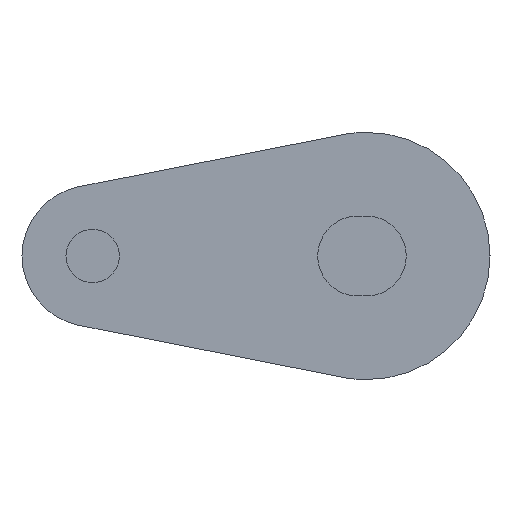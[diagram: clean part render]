
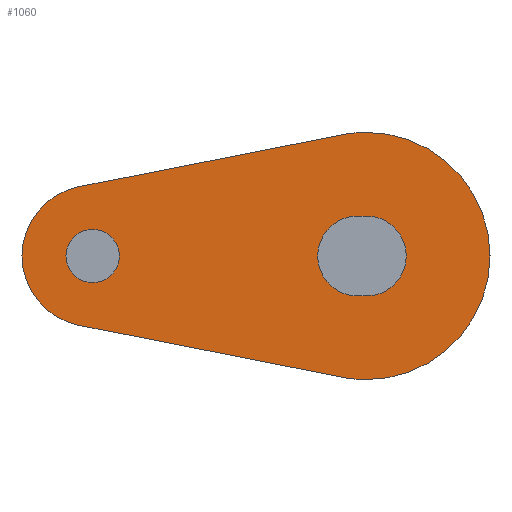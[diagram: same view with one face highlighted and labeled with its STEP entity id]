
A CAD part, left-side view. The second image highlights one B-rep face of the part: STEP entity #1060.
In plain terms, the highlighted planar face has unit normal (-1, 0, 0).
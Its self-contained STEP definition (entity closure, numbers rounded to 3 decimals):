
#6 = CIRCLE ( 'NONE', #933, 2.26 ) ;
#13 = CIRCLE ( 'NONE', #1017, 1.51 ) ;
#18 = VECTOR ( 'NONE', #673, 1000. ) ;
#19 = LINE ( 'NONE', #674, #18 ) ;
#22 = CIRCLE ( 'NONE', #923, 4. ) ;
#24 = CIRCLE ( 'NONE', #874, 1.51 ) ;
#50 = CIRCLE ( 'NONE', #913, 7. ) ;
#62 = CIRCLE ( 'NONE', #961, 7. ) ;
#71 = CIRCLE ( 'NONE', #927, 2.26 ) ;
#79 = CIRCLE ( 'NONE', #957, 7. ) ;
#99 = VECTOR ( 'NONE', #843, 1000. ) ;
#104 = LINE ( 'NONE', #846, #99 ) ;
#107 = LINE ( 'NONE', #861, #110 ) ;
#110 = VECTOR ( 'NONE', #852, 1000. ) ;
#113 = VECTOR ( 'NONE', #862, 1000. ) ;
#191 = ORIENTED_EDGE ( 'NONE', *, *, #1010, .T. ) ;
#196 = EDGE_LOOP ( 'NONE', ( #238, #239, #207, #209, #210, #246 ) ) ;
#204 = ORIENTED_EDGE ( 'NONE', *, *, #991, .T. ) ;
#207 = ORIENTED_EDGE ( 'NONE', *, *, #948, .F. ) ;
#209 = ORIENTED_EDGE ( 'NONE', *, *, #937, .F. ) ;
#210 = ORIENTED_EDGE ( 'NONE', *, *, #903, .F. ) ;
#211 = ORIENTED_EDGE ( 'NONE', *, *, #929, .T. ) ;
#212 = ORIENTED_EDGE ( 'NONE', *, *, #867, .T. ) ;
#213 = ORIENTED_EDGE ( 'NONE', *, *, #981, .T. ) ;
#238 = ORIENTED_EDGE ( 'NONE', *, *, #982, .F. ) ;
#239 = ORIENTED_EDGE ( 'NONE', *, *, #877, .F. ) ;
#243 = ORIENTED_EDGE ( 'NONE', *, *, #994, .T. ) ;
#246 = ORIENTED_EDGE ( 'NONE', *, *, #886, .F. ) ;
#261 = EDGE_LOOP ( 'NONE', ( #191, #204, #211, #212 ) ) ;
#289 = LINE ( 'NONE', #414, #113 ) ;
#312 = EDGE_LOOP ( 'NONE', ( #213, #243 ) ) ;
#372 = FACE_BOUND ( 'NONE', #312, .T. ) ;
#375 = FACE_BOUND ( 'NONE', #261, .T. ) ;
#379 = FACE_OUTER_BOUND ( 'NONE', #196, .T. ) ;
#414 = CARTESIAN_POINT ( 'NONE',  ( -128.5, 0.5, -2.26 ) ) ;
#456 = DIRECTION ( 'NONE',  ( 0., 0., -1. ) ) ;
#457 = DIRECTION ( 'NONE',  ( -1., 0., 0. ) ) ;
#458 = CARTESIAN_POINT ( 'NONE',  ( -128.5, 15.5, 0. ) ) ;
#461 = PLANE ( 'NONE',  #912 ) ;
#490 = CARTESIAN_POINT ( 'NONE',  ( -128.5, 0., 7. ) ) ;
#518 = CARTESIAN_POINT ( 'NONE',  ( -128.5, 1.355, 6.868 ) ) ;
#521 = CARTESIAN_POINT ( 'NONE',  ( -128.5, 0.5, -2.26 ) ) ;
#540 = CARTESIAN_POINT ( 'NONE',  ( -128.5, 16.274, 3.924 ) ) ;
#555 = CARTESIAN_POINT ( 'NONE',  ( -128.5, 15.5, -1.51 ) ) ;
#563 = CARTESIAN_POINT ( 'NONE',  ( -128.5, 0., -2.26 ) ) ;
#579 = CARTESIAN_POINT ( 'NONE',  ( -128.5, 1.355, -6.868 ) ) ;
#586 = CARTESIAN_POINT ( 'NONE',  ( -128.5, 0., 2.26 ) ) ;
#588 = CARTESIAN_POINT ( 'NONE',  ( -128.5, 0.5, 2.26 ) ) ;
#597 = CARTESIAN_POINT ( 'NONE',  ( -128.5, 16.274, -3.924 ) ) ;
#610 = VERTEX_POINT ( 'NONE', #801 ) ;
#617 = VERTEX_POINT ( 'NONE', #588 ) ;
#618 = VERTEX_POINT ( 'NONE', #597 ) ;
#620 = VERTEX_POINT ( 'NONE', #819 ) ;
#630 = VERTEX_POINT ( 'NONE', #586 ) ;
#633 = VERTEX_POINT ( 'NONE', #579 ) ;
#645 = DIRECTION ( 'NONE',  ( 0., 0., -1. ) ) ;
#646 = DIRECTION ( 'NONE',  ( 1., 0., 0. ) ) ;
#656 = VERTEX_POINT ( 'NONE', #563 ) ;
#657 = CARTESIAN_POINT ( 'NONE',  ( -128.5, 0.5, 0. ) ) ;
#667 = DIRECTION ( 'NONE',  ( 0., 0., -1. ) ) ;
#668 = DIRECTION ( 'NONE',  ( 1., 0., 0. ) ) ;
#673 = DIRECTION ( 'NONE',  ( 0., -1., 0. ) ) ;
#674 = CARTESIAN_POINT ( 'NONE',  ( -128.5, 0.5, 2.26 ) ) ;
#675 = VERTEX_POINT ( 'NONE', #555 ) ;
#681 = DIRECTION ( 'NONE',  ( 0., 0., -1. ) ) ;
#683 = VERTEX_POINT ( 'NONE', #540 ) ;
#684 = DIRECTION ( 'NONE',  ( 1., 0., 0. ) ) ;
#687 = CARTESIAN_POINT ( 'NONE',  ( -128.5, 15.5, 0. ) ) ;
#689 = CARTESIAN_POINT ( 'NONE',  ( -128.5, 15.5, 0. ) ) ;
#690 = DIRECTION ( 'NONE',  ( 0., 0., -1. ) ) ;
#691 = DIRECTION ( 'NONE',  ( 1., 0., 0. ) ) ;
#702 = CARTESIAN_POINT ( 'NONE',  ( -128.5, 15.5, 0. ) ) ;
#724 = VERTEX_POINT ( 'NONE', #521 ) ;
#725 = VERTEX_POINT ( 'NONE', #518 ) ;
#748 = DIRECTION ( 'NONE',  ( 0., 0., -1. ) ) ;
#749 = DIRECTION ( 'NONE',  ( 1., 0., 0. ) ) ;
#762 = CARTESIAN_POINT ( 'NONE',  ( -128.5, 0., 0. ) ) ;
#764 = VERTEX_POINT ( 'NONE', #490 ) ;
#781 = DIRECTION ( 'NONE',  ( 0., 0., -1. ) ) ;
#782 = DIRECTION ( 'NONE',  ( 1., 0., 0. ) ) ;
#783 = CARTESIAN_POINT ( 'NONE',  ( -128.5, 0., 0. ) ) ;
#794 = DIRECTION ( 'NONE',  ( 0., 0., -1. ) ) ;
#795 = DIRECTION ( 'NONE',  ( 1., 0., 0. ) ) ;
#798 = CARTESIAN_POINT ( 'NONE',  ( -128.5, 0., 0. ) ) ;
#801 = CARTESIAN_POINT ( 'NONE',  ( -128.5, 0., -7. ) ) ;
#816 = DIRECTION ( 'NONE',  ( 0., 0., -1. ) ) ;
#817 = DIRECTION ( 'NONE',  ( 1., 0., 0. ) ) ;
#819 = CARTESIAN_POINT ( 'NONE',  ( -128.5, 15.5, 1.51 ) ) ;
#821 = CARTESIAN_POINT ( 'NONE',  ( -128.5, 0., 0. ) ) ;
#843 = DIRECTION ( 'NONE',  ( 0., -0.981, 0.194 ) ) ;
#846 = CARTESIAN_POINT ( 'NONE',  ( -128.5, 16.274, 3.924 ) ) ;
#852 = DIRECTION ( 'NONE',  ( 0., 0.981, 0.194 ) ) ;
#861 = CARTESIAN_POINT ( 'NONE',  ( -128.5, 1.355, -6.868 ) ) ;
#862 = DIRECTION ( 'NONE',  ( 0., 1., 0. ) ) ;
#867 = EDGE_CURVE ( 'NONE', #656, #724, #289, .T. ) ;
#874 = AXIS2_PLACEMENT_3D ( 'NONE', #702, #691, #690 ) ;
#877 = EDGE_CURVE ( 'NONE', #633, #618, #107, .T. ) ;
#886 = EDGE_CURVE ( 'NONE', #683, #725, #104, .T. ) ;
#903 = EDGE_CURVE ( 'NONE', #725, #764, #79, .T. ) ;
#912 = AXIS2_PLACEMENT_3D ( 'NONE', #458, #457, #456 ) ;
#913 = AXIS2_PLACEMENT_3D ( 'NONE', #762, #749, #748 ) ;
#923 = AXIS2_PLACEMENT_3D ( 'NONE', #689, #684, #681 ) ;
#927 = AXIS2_PLACEMENT_3D ( 'NONE', #798, #795, #794 ) ;
#929 = EDGE_CURVE ( 'NONE', #630, #656, #71, .T. ) ;
#933 = AXIS2_PLACEMENT_3D ( 'NONE', #657, #646, #645 ) ;
#937 = EDGE_CURVE ( 'NONE', #764, #610, #62, .T. ) ;
#948 = EDGE_CURVE ( 'NONE', #610, #633, #50, .T. ) ;
#957 = AXIS2_PLACEMENT_3D ( 'NONE', #821, #817, #816 ) ;
#961 = AXIS2_PLACEMENT_3D ( 'NONE', #783, #782, #781 ) ;
#981 = EDGE_CURVE ( 'NONE', #675, #620, #24, .T. ) ;
#982 = EDGE_CURVE ( 'NONE', #618, #683, #22, .T. ) ;
#991 = EDGE_CURVE ( 'NONE', #617, #630, #19, .T. ) ;
#994 = EDGE_CURVE ( 'NONE', #620, #675, #13, .T. ) ;
#1010 = EDGE_CURVE ( 'NONE', #724, #617, #6, .T. ) ;
#1017 = AXIS2_PLACEMENT_3D ( 'NONE', #687, #668, #667 ) ;
#1060 = ADVANCED_FACE ( 'NONE', ( #375, #372, #379 ), #461, .T. ) ;
